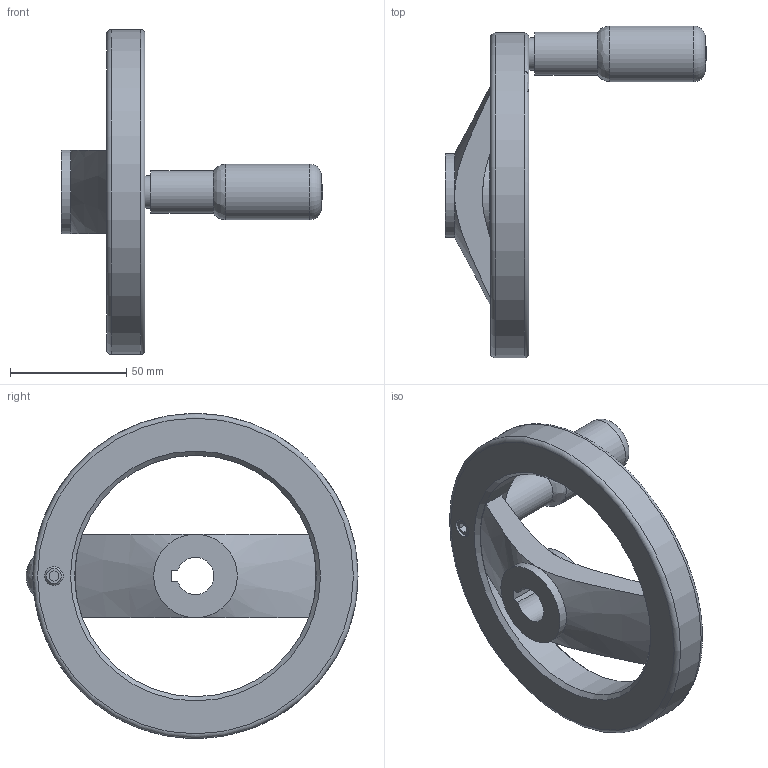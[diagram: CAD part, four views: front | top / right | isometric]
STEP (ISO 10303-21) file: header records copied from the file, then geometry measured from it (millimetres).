
FILE_DESCRIPTION( ( 'STEP AP203' ), '1' );
FILE_NAME( 'C:/Temp/Ganter_Step_05_03_2020/data/1_3/gn_324/gn_324_k/gn_324_k_d/Handwheel, matt black GN 324-140-K16-R.stp', '2020-03-05T10:33:02', ( 'License CC BY-ND 4.0' ), ( 'CADENAS' ), ' ', 'PARTsolutions', ' ' );
FILE_SCHEMA( ( 'CONFIG_CONTROL_DESIGN' ) );
Length unit declared in the file: millimetre
Products named in the file (1): _Handwheel, matt black GN 324-140-K16-R
Bounding box: 112.5 x 143 x 140 mm (x, y, z)
Volume: 183886.9 mm3; surface area: 41638 mm2
Topology: 1 solids, 2 shells, 43 faces, 99 edges, 61 vertices
Faces by surface type: plane 19, cylinder 11, cone 8, torus 3, sphere 1, bspline 1
Full cylindrical faces by diameter (mm): 6.446 x1, 8 x2, 14 x1, 18.5 x1, 24 x1, 36 x2, 104 x1, 140 x1
Entity records: 1275 total; most frequent: CARTESIAN_POINT 349, DIRECTION 186, ORIENTED_EDGE 148, AXIS2_PLACEMENT_3D 77, EDGE_CURVE 74, EDGE_LOOP 71, FACE_OUTER_BOUND 57, VERTEX_POINT 56
